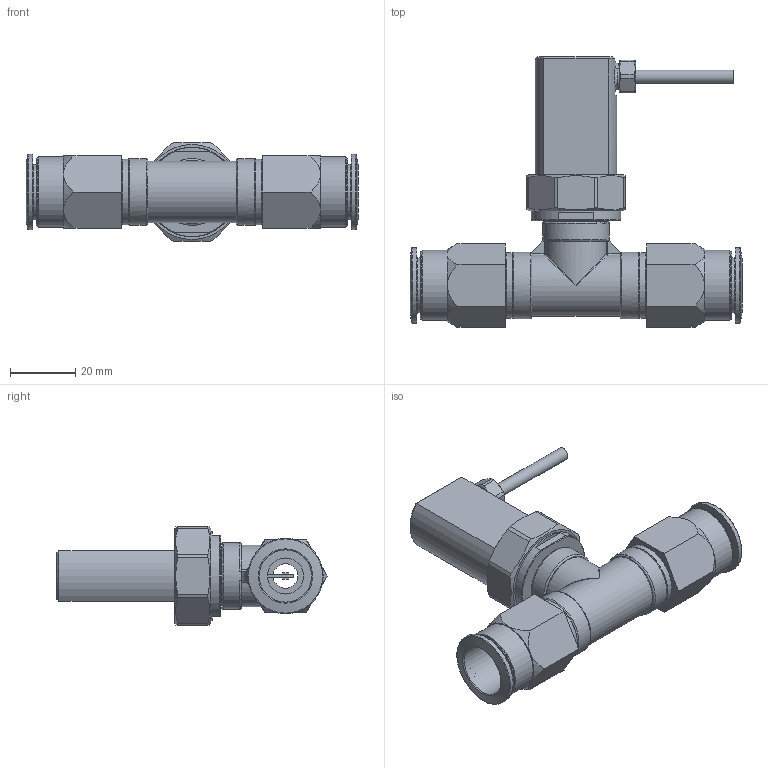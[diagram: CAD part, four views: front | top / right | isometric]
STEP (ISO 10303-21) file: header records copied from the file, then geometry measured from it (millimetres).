
FILE_DESCRIPTION(/* description */ (''),/* implementation_level */ '2;1');
FILE_NAME(/* name */ 'Mini-IL 30.212 mit Steckverschraubung.stp',/* time_stamp */ '2025-07-15T14:35:13+02:00',/* author */ (''),/* organization */ (''),/* preprocessor_version */ 'ST-DEVELOPER v19.4',/* originating_system */ 'SIEMENS PLM Software NX2306.8501',/* authorisation */ '');
FILE_SCHEMA (('AP203_CONFIGURATION_CONTROLLED_3D_DESIGN_OF_MECHANICAL_PARTS_AND_ASSEMBLIES_MIM_LF { 1 0 10303 403 2 1 2}'));
Length unit declared in the file: millimetre
Products named in the file (1): 01_objects
Bounding box: 101.4 x 82.5 x 30 mm (x, y, z)
Surface area: 23353.2 mm2 (no closed solid volume)
Topology: 0 solids, 1 shells, 283 faces, 717 edges, 452 vertices
Faces by surface type: plane 133, cylinder 72, cone 43, torus 16, bspline 15, sphere 4
Full cylindrical faces by diameter (mm): 4 x1, 8 x1, 11 x2, 11.108 x2, 14.5 x4, 14.6 x1, 15 x4, 16 x2, 16.8 x2, 19 x2, 20 x2, 20.4 x3, 21 x2, 21.4 x2, 23 x2, 27.3 x1, 27.4 x1
Entity records: 12572 total; most frequent: CARTESIAN_POINT 6439, ORIENTED_EDGE 1204, DIRECTION 1202, EDGE_CURVE 602, AXIS2_PLACEMENT_3D 478, VERTEX_POINT 419, EDGE_LOOP 383, ADVANCED_FACE 278
